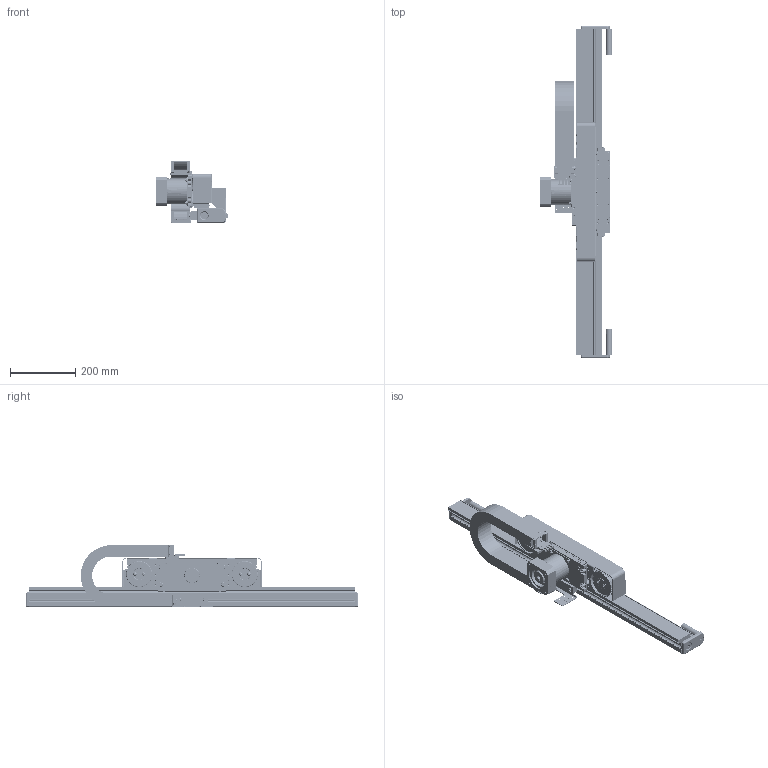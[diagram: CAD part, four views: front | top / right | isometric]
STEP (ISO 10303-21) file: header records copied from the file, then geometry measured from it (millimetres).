
FILE_DESCRIPTION( ( '' ), ' ' );
FILE_NAME( '/vol/tmp/translate-11417207420231924695/5c7eb0dc88742517065b3fd8.step', '2019-03-05T17:24:45', ( '' ), ( '' ), ' ', ' ', ' ' );
FILE_SCHEMA( ( 'AUTOMOTIVE_DESIGN { 1 0 10303 214 1 1 1 1 }' ) );
Length unit declared in the file: metre
Products named in the file (99): RAIL FASTENERS <15>; 20mm BEARING RAIL CAP; 102684-001 BOSCH 10mm T-BLOCK M5; 100001-8065 M5-.80 X 25 ALLOY SHCS; FASTENERS <3>; 100001-073 M6 X 12 SS SHCS; 102811-002 M6 T-NUT; RAIL FASTENERS <4>; FASTENERS <5>; RAIL FASTENERS <6>; RAIL FASTENERS <11>; RAIL FASTENERS <12>; RAIL FASTENERS <9>; RAIL FASTENERS <16>; RAIL FASTENERS <5>; RAIL FASTENERS <10>; RAIL FASTENERS <1>; RAIL FASTENERS <17>; RAIL FASTENERS <13>; RAIL FASTENERS <7>; RAIL FASTENERS <2>; FASTENERS <2>; FASTENERS <4>; RAIL FASTENERS <8>; FASTENERS <1>; RAIL FASTENERS <14>; RAIL FASTENERS <3>; RAIL <1>; 102732-1000 20mm STANDARD GUIDE RAIL; 106888-001 20mm RAIL COVER; TRAY <1>; 103072-001 T10 X 50mm BELTING; 104481-1000 SBL-H BELT TRAY; 102610-006 VHB TAPE 50mm; IGUS E6-29-040 END BRACKET (1) <2>; iguse6-29-040-2; iguse6-29-040-3(Default); iguse6-29-040-4(Default); iguse6-29-040-1; IGUS E6-29-040 END BRACKET (1) <1>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
Assembly tree (232 placements, depth 5):
  Assem1
    E6-29-40 LINKS
    1000 CHASSIS <1>
      102897-1000 45-SERIES PROFILE 45X45H
      RAIL <1>
        102732-1000 20mm STANDARD GUIDE RAIL
        106888-001 20mm RAIL COVER
        RAIL FASTENERS <6>
          20mm BEARING RAIL CAP
          100001-8065 M5-.80 X 25 ALLOY SHCS
          102684-001 BOSCH 10mm T-BLOCK M5
        RAIL FASTENERS <17>
          100001-8065 M5-.80 X 25 ALLOY SHCS
          102684-001 BOSCH 10mm T-BLOCK M5
          20mm BEARING RAIL CAP
        RAIL FASTENERS <14>
          20mm BEARING RAIL CAP
          102684-001 BOSCH 10mm T-BLOCK M5
          100001-8065 M5-.80 X 25 ALLOY SHCS
        RAIL FASTENERS <3>
          20mm BEARING RAIL CAP
          100001-8065 M5-.80 X 25 ALLOY SHCS
          102684-001 BOSCH 10mm T-BLOCK M5
        RAIL FASTENERS <15>
          20mm BEARING RAIL CAP
          102684-001 BOSCH 10mm T-BLOCK M5
          100001-8065 M5-.80 X 25 ALLOY SHCS
        RAIL FASTENERS <5>
          20mm BEARING RAIL CAP
          100001-8065 M5-.80 X 25 ALLOY SHCS
          102684-001 BOSCH 10mm T-BLOCK M5
        RAIL FASTENERS <12>
          102684-001 BOSCH 10mm T-BLOCK M5
          100001-8065 M5-.80 X 25 ALLOY SHCS
          20mm BEARING RAIL CAP
        RAIL FASTENERS <16>
          20mm BEARING RAIL CAP
          100001-8065 M5-.80 X 25 ALLOY SHCS
          102684-001 BOSCH 10mm T-BLOCK M5
        RAIL FASTENERS <1>
          100001-8065 M5-.80 X 25 ALLOY SHCS
          102684-001 BOSCH 10mm T-BLOCK M5
          20mm BEARING RAIL CAP
        RAIL FASTENERS <9>
          102684-001 BOSCH 10mm T-BLOCK M5
          20mm BEARING RAIL CAP
          100001-8065 M5-.80 X 25 ALLOY SHCS
        RAIL FASTENERS <10>
          100001-8065 M5-.80 X 25 ALLOY SHCS
          102684-001 BOSCH 10mm T-BLOCK M5
          20mm BEARING RAIL CAP
        RAIL FASTENERS <4>
          102684-001 BOSCH 10mm T-BLOCK M5
          20mm BEARING RAIL CAP
          100001-8065 M5-.80 X 25 ALLOY SHCS
        RAIL FASTENERS <2>
          20mm BEARING RAIL CAP
          102684-001 BOSCH 10mm T-BLOCK M5
          100001-8065 M5-.80 X 25 ALLOY SHCS
        RAIL FASTENERS <7>
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Bounding box: 222.11 x 1019.05 x 189.79 mm (x, y, z)
Volume: 5566448 mm3; surface area: 2315490.9 mm2
Topology: 195 solids, 196 shells, 5192 faces, 13303 edges, 8761 vertices
Faces by surface type: plane 3203, cylinder 1541, cone 328, torus 103, sphere 13, bspline 4
Full cylindrical faces by diameter (mm): 2.5 x16, 2.54 x2, 2.6 x4, 2.66 x4, 3.3 x2, 3.6 x2, 3.988 x6, 4 x4, 4.2 x28, 4.216 x16, 4.5 x14, 5 x59, 5.004 x39, 5.1 x1, 5.105 x4, 5.5 x27, 5.8 x8, 5.867 x2, 5.994 x15, 6 x34, 6.2 x4, 6.4 x5, 6.5 x6, 6.6 x5, 6.8 x2, 6.858 x2, 7 x10, 7.112 x5, 7.5 x8, 7.74 x4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
Entity records: 114914 total; most frequent: CARTESIAN_POINT 18086, DIRECTION 15475, ORIENTED_EDGE 14256, EDGE_CURVE 7128, AXIS2_PLACEMENT_3D 5355, VERTEX_POINT 5007, LINE 4765, VECTOR 4765
